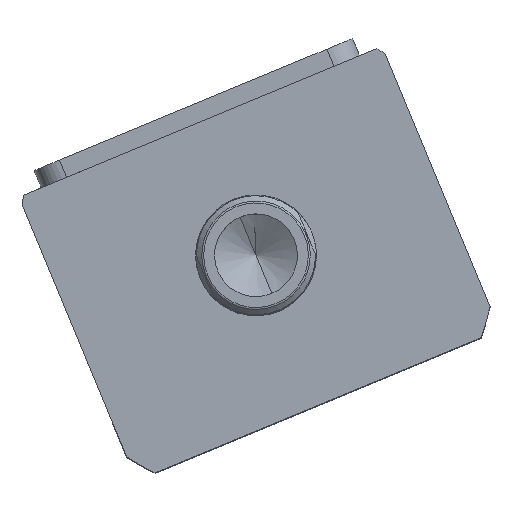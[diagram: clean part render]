
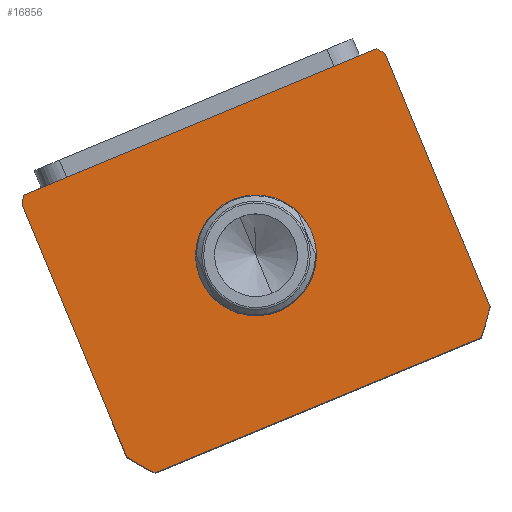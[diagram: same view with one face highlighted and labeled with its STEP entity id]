
A CAD part, top view. The second image highlights one B-rep face of the part: STEP entity #16856.
In plain terms, the highlighted planar face has unit normal (0, 0, 1) as drawn and (0, 0, -1) by its records, which use the part's own axes.
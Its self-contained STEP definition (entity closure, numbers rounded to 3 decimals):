
#2 = FACE_BOUND ( 'NONE', #2738, .T. ) ;
#246 = CIRCLE ( 'NONE', #11193, 17.5 ) ;
#579 = EDGE_CURVE ( 'NONE', #11467, #8233, #6930, .T. ) ;
#653 = ORIENTED_EDGE ( 'NONE', *, *, #8178, .F. ) ;
#685 = AXIS2_PLACEMENT_3D ( 'NONE', #12310, #8099, #18135 ) ;
#884 = CARTESIAN_POINT ( 'NONE',  ( 51.198, -106.497, 0. ) ) ;
#1619 = ORIENTED_EDGE ( 'NONE', *, *, #10011, .F. ) ;
#1678 = VERTEX_POINT ( 'NONE', #10391 ) ;
#1866 = VERTEX_POINT ( 'NONE', #15148 ) ;
#2025 = DIRECTION ( 'NONE',  ( 1., 0., 0. ) ) ;
#2164 = DIRECTION ( 'NONE',  ( 0., 0., 1. ) ) ;
#2358 = DIRECTION ( 'NONE',  ( 0., -1., 0. ) ) ;
#2738 = EDGE_LOOP ( 'NONE', ( #5245, #17989 ) ) ;
#2802 = DIRECTION ( 'NONE',  ( 0., 0., 1. ) ) ;
#2864 = CARTESIAN_POINT ( 'NONE',  ( 0., -59.497, 0. ) ) ;
#2993 = ORIENTED_EDGE ( 'NONE', *, *, #9037, .F. ) ;
#3186 = ORIENTED_EDGE ( 'NONE', *, *, #18292, .F. ) ;
#3220 = CARTESIAN_POINT ( 'NONE',  ( 55.374, -17.497, 0. ) ) ;
#3366 = VECTOR ( 'NONE', #2358, 1000. ) ;
#3772 = DIRECTION ( 'NONE',  ( 0., 0., 1. ) ) ;
#4027 = LINE ( 'NONE', #4622, #7028 ) ;
#4622 = CARTESIAN_POINT ( 'NONE',  ( -57., -17.497, 0. ) ) ;
#4671 = DIRECTION ( 'NONE',  ( 1., 0., 0. ) ) ;
#4985 = ORIENTED_EDGE ( 'NONE', *, *, #579, .F. ) ;
#5074 = DIRECTION ( 'NONE',  ( 0., 0., 1. ) ) ;
#5200 = DIRECTION ( 'NONE',  ( 0., 0., 1. ) ) ;
#5245 = ORIENTED_EDGE ( 'NONE', *, *, #15678, .T. ) ;
#5353 = AXIS2_PLACEMENT_3D ( 'NONE', #13724, #5074, #15171 ) ;
#5937 = CIRCLE ( 'NONE', #13953, 69.5 ) ;
#6543 = LINE ( 'NONE', #10934, #16665 ) ;
#6705 = EDGE_CURVE ( 'NONE', #16088, #1678, #14705, .T. ) ;
#6708 = DIRECTION ( 'NONE',  ( 0., 0., 1. ) ) ;
#6774 = VECTOR ( 'NONE', #4671, 1000. ) ;
#6930 = CIRCLE ( 'NONE', #17248, 69.5 ) ;
#6964 = AXIS2_PLACEMENT_3D ( 'NONE', #10882, #2164, #12325 ) ;
#7028 = VECTOR ( 'NONE', #14732, 1000. ) ;
#7484 = CIRCLE ( 'NONE', #6964, 17.5 ) ;
#7666 = ORIENTED_EDGE ( 'NONE', *, *, #8448, .F. ) ;
#8099 = DIRECTION ( 'NONE',  ( 0., 0., 1. ) ) ;
#8172 = CARTESIAN_POINT ( 'NONE',  ( -57., -17.497, 0. ) ) ;
#8178 = EDGE_CURVE ( 'NONE', #8233, #16088, #4027, .T. ) ;
#8233 = VERTEX_POINT ( 'NONE', #3220 ) ;
#8243 = CARTESIAN_POINT ( 'NONE',  ( 17.5, -59.497, 0. ) ) ;
#8448 = EDGE_CURVE ( 'NONE', #17037, #11467, #6543, .T. ) ;
#9037 = EDGE_CURVE ( 'NONE', #1866, #11013, #17798, .T. ) ;
#9339 = VERTEX_POINT ( 'NONE', #9539 ) ;
#9539 = CARTESIAN_POINT ( 'NONE',  ( -57., -99.262, 0. ) ) ;
#10011 = EDGE_CURVE ( 'NONE', #11013, #17037, #15794, .T. ) ;
#10082 = CARTESIAN_POINT ( 'NONE',  ( -55.374, -17.497, 0. ) ) ;
#10245 = AXIS2_PLACEMENT_3D ( 'NONE', #13848, #5200, #15294 ) ;
#10391 = CARTESIAN_POINT ( 'NONE',  ( -57., -19.732, 0. ) ) ;
#10882 = CARTESIAN_POINT ( 'NONE',  ( 0., -59.497, 0. ) ) ;
#10934 = CARTESIAN_POINT ( 'NONE',  ( 57., -17.497, 0. ) ) ;
#10936 = EDGE_CURVE ( 'NONE', #16154, #11136, #7484, .T. ) ;
#11013 = VERTEX_POINT ( 'NONE', #884 ) ;
#11053 = EDGE_CURVE ( 'NONE', #1678, #9339, #11086, .T. ) ;
#11056 = DIRECTION ( 'NONE',  ( 0., 1., 0. ) ) ;
#11086 = LINE ( 'NONE', #8172, #3366 ) ;
#11136 = VERTEX_POINT ( 'NONE', #8243 ) ;
#11193 = AXIS2_PLACEMENT_3D ( 'NONE', #12450, #3772, #13898 ) ;
#11467 = VERTEX_POINT ( 'NONE', #16897 ) ;
#11703 = CARTESIAN_POINT ( 'NONE',  ( 57., -99.262, 0. ) ) ;
#12310 = CARTESIAN_POINT ( 'NONE',  ( 0., 0., 0. ) ) ;
#12325 = DIRECTION ( 'NONE',  ( 1., 0., 0. ) ) ;
#12450 = CARTESIAN_POINT ( 'NONE',  ( 0., -59.497, 0. ) ) ;
#12792 = ORIENTED_EDGE ( 'NONE', *, *, #6705, .F. ) ;
#13323 = CARTESIAN_POINT ( 'NONE',  ( -57., -106.497, 0. ) ) ;
#13724 = CARTESIAN_POINT ( 'NONE',  ( 0., -59.497, 0. ) ) ;
#13848 = CARTESIAN_POINT ( 'NONE',  ( 0., -59.497, 0. ) ) ;
#13898 = DIRECTION ( 'NONE',  ( 1., 0., 0. ) ) ;
#13953 = AXIS2_PLACEMENT_3D ( 'NONE', #15326, #6708, #16769 ) ;
#14419 = CARTESIAN_POINT ( 'NONE',  ( -17.5, -59.497, 0. ) ) ;
#14705 = CIRCLE ( 'NONE', #10245, 69.5 ) ;
#14732 = DIRECTION ( 'NONE',  ( -1., 0., 0. ) ) ;
#14972 = FACE_OUTER_BOUND ( 'NONE', #17750, .T. ) ;
#15148 = CARTESIAN_POINT ( 'NONE',  ( -51.198, -106.497, 0. ) ) ;
#15171 = DIRECTION ( 'NONE',  ( 1., 0., 0. ) ) ;
#15294 = DIRECTION ( 'NONE',  ( 1., 0., 0. ) ) ;
#15326 = CARTESIAN_POINT ( 'NONE',  ( 0., -59.497, 0. ) ) ;
#15678 = EDGE_CURVE ( 'NONE', #11136, #16154, #246, .T. ) ;
#15794 = CIRCLE ( 'NONE', #5353, 69.5 ) ;
#16088 = VERTEX_POINT ( 'NONE', #10082 ) ;
#16154 = VERTEX_POINT ( 'NONE', #14419 ) ;
#16665 = VECTOR ( 'NONE', #11056, 1000. ) ;
#16691 = PLANE ( 'NONE',  #685 ) ;
#16769 = DIRECTION ( 'NONE',  ( 1., 0., 0. ) ) ;
#16856 = ADVANCED_FACE ( 'NONE', ( #2, #14972 ), #16691, .F. ) ;
#16897 = CARTESIAN_POINT ( 'NONE',  ( 57., -19.732, 0. ) ) ;
#17037 = VERTEX_POINT ( 'NONE', #11703 ) ;
#17248 = AXIS2_PLACEMENT_3D ( 'NONE', #2864, #2802, #2025 ) ;
#17260 = ORIENTED_EDGE ( 'NONE', *, *, #11053, .F. ) ;
#17750 = EDGE_LOOP ( 'NONE', ( #4985, #7666, #1619, #2993, #3186, #17260, #12792, #653 ) ) ;
#17798 = LINE ( 'NONE', #13323, #6774 ) ;
#17989 = ORIENTED_EDGE ( 'NONE', *, *, #10936, .T. ) ;
#18135 = DIRECTION ( 'NONE',  ( 1., 0., 0. ) ) ;
#18292 = EDGE_CURVE ( 'NONE', #9339, #1866, #5937, .T. ) ;
